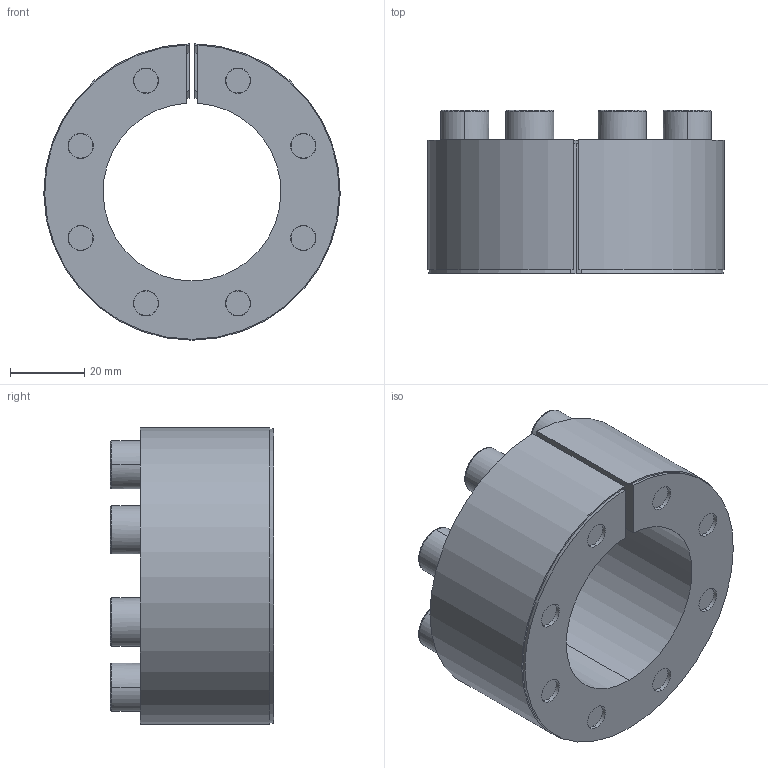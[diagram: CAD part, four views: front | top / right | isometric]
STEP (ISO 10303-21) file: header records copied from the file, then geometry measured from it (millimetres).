
FILE_DESCRIPTION (( 'STEP AP214' ), '1' );
FILE_NAME ('CONEX-K-48x80.step', '2015-09-15T13:15:17', ( '' ), ( '' ), 'SwSTEP 2.0', 'SolidWorks 2013', '' );
FILE_SCHEMA (( 'AUTOMOTIVE_DESIGN' ));
Length unit declared in the file: millimetre
Products named in the file (1): CONEX-K-48x80
Bounding box: 80 x 44.01 x 79.99 mm (x, y, z)
Volume: 98841.1 mm3; surface area: 55584.9 mm2
Topology: 10 solids, 10 shells, 283 faces, 703 edges, 440 vertices
Faces by surface type: plane 130, cylinder 78, cone 43, bspline 32
Entity records: 12899 total; most frequent: CARTESIAN_POINT 2875, DIRECTION 1473, ORIENTED_EDGE 1374, EDGE_CURVE 687, AXIS2_PLACEMENT_3D 574, VERTEX_POINT 440, EDGE_LOOP 339, LINE 325
